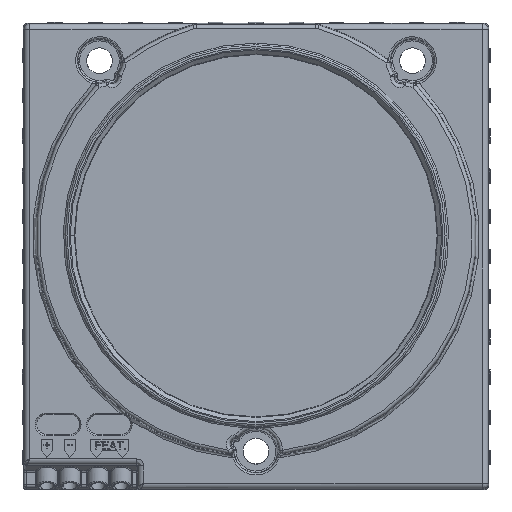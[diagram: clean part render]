
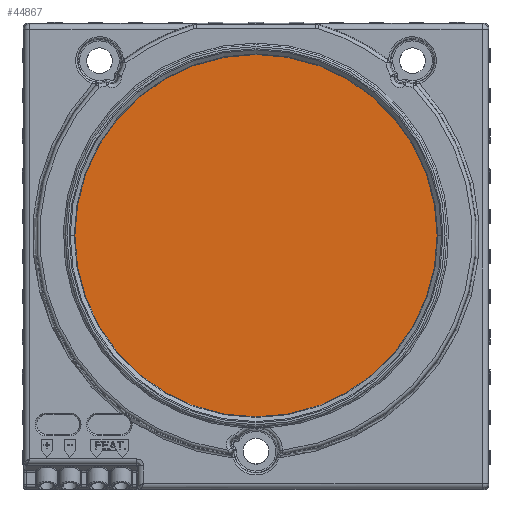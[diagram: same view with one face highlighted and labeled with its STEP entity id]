
A CAD part, top view. The second image highlights one B-rep face of the part: STEP entity #44867.
In plain terms, the highlighted planar face has unit normal (0, 0, 1).
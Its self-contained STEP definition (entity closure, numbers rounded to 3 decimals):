
#13004=CARTESIAN_POINT('',(0.,0.,18.5));
#13005=DIRECTION('',(0.,0.,-1.));
#13006=DIRECTION('',(-1.,0.,0.));
#13007=AXIS2_PLACEMENT_3D('',#13004,#13005,#13006);
#13012=CARTESIAN_POINT('',(0.,0.,18.5));
#13013=DIRECTION('',(0.,0.,-1.));
#13014=DIRECTION('',(1.,0.,0.));
#13015=AXIS2_PLACEMENT_3D('',#13012,#13013,#13014);
#23796=CARTESIAN_POINT('',(-31.55,0.,18.5));
#23797=CARTESIAN_POINT('',(31.55,0.,18.5));
#23798=VERTEX_POINT('',#23796);
#23799=VERTEX_POINT('',#23797);
#44857=CARTESIAN_POINT('',(0.,0.,18.5));
#44858=DIRECTION('',(0.,0.,1.));
#44859=DIRECTION('',(-1.,0.,0.));
#44860=AXIS2_PLACEMENT_3D('',#44857,#44858,#44859);
#44861=PLANE('',#44860);
#44862=ORIENTED_EDGE('',*,*,#44840,.T.);
#44864=ORIENTED_EDGE('',*,*,#44863,.T.);
#44865=EDGE_LOOP('',(#44862,#44864));
#44866=FACE_OUTER_BOUND('',#44865,.F.);
#13008=CIRCLE('',#13007,31.55);
#13016=CIRCLE('',#13015,31.55);
#44840=EDGE_CURVE('',#23798,#23799,#13008,.T.);
#44863=EDGE_CURVE('',#23799,#23798,#13016,.T.);
#44867=ADVANCED_FACE('',(#44866),#44861,.T.);
